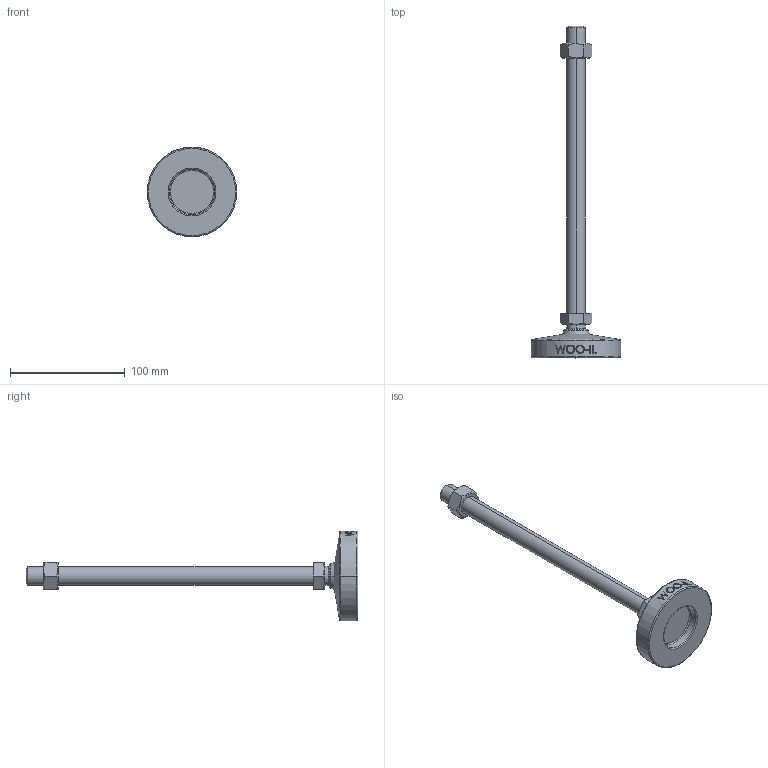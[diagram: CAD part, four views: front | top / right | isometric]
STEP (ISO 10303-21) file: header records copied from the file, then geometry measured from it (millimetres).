
FILE_DESCRIPTION (( 'STEP AP214' ), '1' );
FILE_NAME ('MFN78-M16-250.step', '2021-01-19T06:30:03', ( '' ), ( '' ), 'SwSTEP 2.0', 'SolidWorks 2019', '' );
FILE_SCHEMA (( 'AUTOMOTIVE_DESIGN' ));
Length unit declared in the file: millimetre
Products named in the file (2): MFN78-M16-250
Bounding box: 78 x 289 x 78 mm (x, y, z)
Volume: 137953.4 mm3; surface area: 30765.7 mm2
Topology: 2 solids, 2 shells, 109 faces, 253 edges, 160 vertices
Faces by surface type: plane 47, cone 18, cylinder 18, bspline 16, torus 8, sphere 2
Entity records: 4621 total; most frequent: CARTESIAN_POINT 2196, ORIENTED_EDGE 506, DIRECTION 461, EDGE_CURVE 253, AXIS2_PLACEMENT_3D 179, VERTEX_POINT 160, EDGE_LOOP 123, FACE_OUTER_BOUND 109
